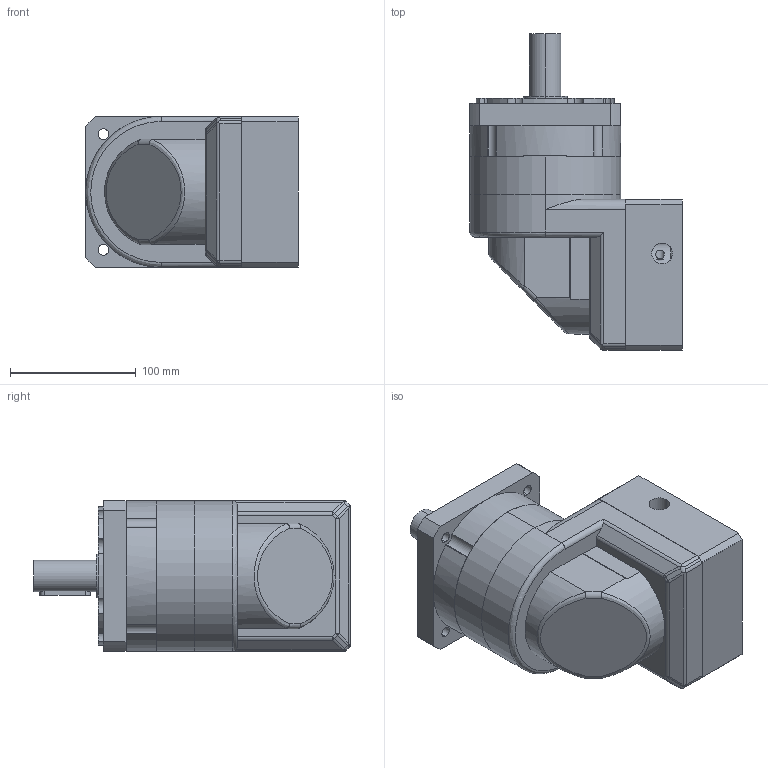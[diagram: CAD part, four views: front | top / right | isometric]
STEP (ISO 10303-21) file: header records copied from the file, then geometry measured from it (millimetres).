
FILE_DESCRIPTION (( 'STEP AP203' ), '1' );
FILE_NAME ('PVFA120-L1-24-95-115.STEP', '2026-09-18T04:10:52', ( 'Windows User' ), ( 'P R C' ), 'SwSTEP 2.0', 'SolidWorks 2016', '' );
FILE_SCHEMA (( 'CONFIG_CONTROL_DESIGN' ));
Length unit declared in the file: millimetre
Products named in the file (9): 邧埴瑩 8x7x40; 粣創-3207A 35x72x27_2; PVFA120-L1-24-95-115; PVFA120-眊极陔; PVFA120 κｳﾝﾈｦ-ﾓﾅｻｯ_ﾒｻｼｶﾄﾚｳﾝﾈｦ; PVFA120 奻屳唳; PVFA120-蟀諉啣-95-M6-115; PVFA120-薊粣ん-24; 螺釘範本 M8x20
Assembly tree (8 placements, depth 2):
  PVFA120-L1-24-95-115
    PVFA120-眊极陔
    PVFA120 κｳﾝﾈｦ-ﾓﾅｻｯ_ﾒｻｼｶﾄﾚｳﾝﾈｦ
    PVFA120 奻屳唳
    PVFA120-蟀諉啣-95-M6-115
    PVFA120-薊粣ん-24
    螺釘範本 M8x20
    邧埴瑩 8x7x40
    粣創-3207A 35x72x27_2
Bounding box: 169 x 252 x 120 mm (x, y, z)
Volume: 2394307.1 mm3; surface area: 306475.3 mm2
Topology: 8 solids, 16 shells, 1195 faces, 3240 edges, 2123 vertices
Faces by surface type: plane 642, bspline 282, cylinder 243, cone 28
Entity records: 48133 total; most frequent: CARTESIAN_POINT 18727, ORIENTED_EDGE 6436, DIRECTION 5084, EDGE_CURVE 3218, VERTEX_POINT 2123, VECTOR 1862, LINE 1862, AXIS2_PLACEMENT_3D 1611
